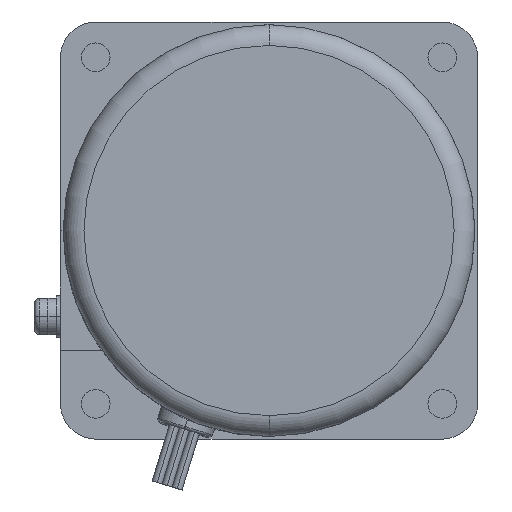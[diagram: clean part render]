
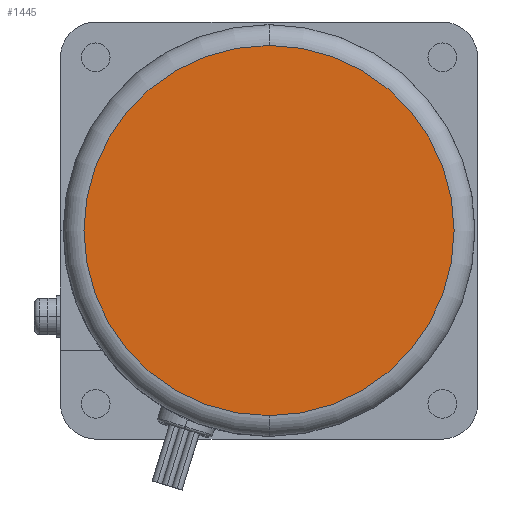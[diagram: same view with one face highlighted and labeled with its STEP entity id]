
A CAD part, left-side view. The second image highlights one B-rep face of the part: STEP entity #1445.
In plain terms, the highlighted planar face has unit normal (-1, 0, 0).
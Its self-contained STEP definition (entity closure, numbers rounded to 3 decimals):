
#1425=CARTESIAN_POINT('POINT660680',(-172.5,0.,
   20.5));
#1426=VERTEX_POINT('VERTEX660680',#1425);
#1427=CARTESIAN_POINT('POINT660681',(-172.5,0.,
   -50.5));
#1428=VERTEX_POINT('VERTEX660681',#1427);
#1429=CARTESIAN_POINT('POS1088395',(-172.5,0.,-15.));
#1430=DIRECTION('DIR1629780',(-1.,0.,0.));
#1431=DIRECTION('DIR1629781',(0.,0.,-1.));
#1432=AXIS2_PLACEMENT_3D('AXIS541386',#1429,#1430,#1431);
#1433=CIRCLE('ELLIPSE244402',#1432,35.5);
#1434=EDGE_CURVE('EDGE1015288',#1426,#1428,#1433,.T.);
#1435=ORIENTED_EDGE('COEDGE2031275',*,*,#1434,.T.);
#1436=EDGE_CURVE('EDGE1015289',#1428,#1426,#1433,.T.);
#1437=ORIENTED_EDGE('COEDGE2031276',*,*,#1436,.T.);
#1438=EDGE_LOOP('NONE',(#1435,#1437));
#1439=FACE_BOUND('LOOP1',#1438,.T.);
#1440=CARTESIAN_POINT('POS1088396',(-172.5,0.,-34.745));
#1441=DIRECTION('DIR1629782',(-1.,0.,0.));
#1442=DIRECTION('DIR1629783',(0.,1.,0.));
#1443=AXIS2_PLACEMENT_3D('AXIS541387',#1440,#1441,#1442);
#1444=PLANE('PLANE187262',#1443);
#1445=ADVANCED_FACE('FACE414521',(#1439),#1444,.T.);
